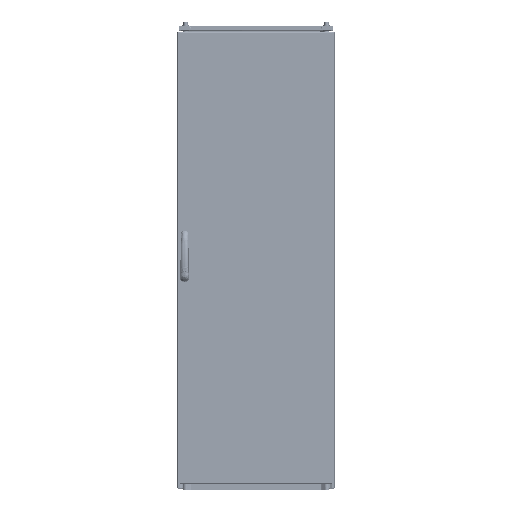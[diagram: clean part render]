
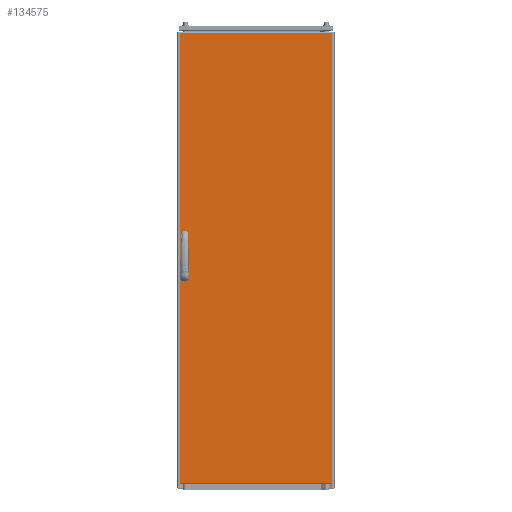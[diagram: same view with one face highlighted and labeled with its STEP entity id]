
A CAD part, top view. The second image highlights one B-rep face of the part: STEP entity #134575.
In plain terms, the highlighted planar face has unit normal (0, 0, 1).
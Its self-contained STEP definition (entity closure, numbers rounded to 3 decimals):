
#3842 = CARTESIAN_POINT ( 'NONE',  ( 0., 1757., 19. ) ) ;
#10317 = CARTESIAN_POINT ( 'NONE',  ( 28.7, 847.75, 19. ) ) ;
#10987 = CARTESIAN_POINT ( 'NONE',  ( 9.7, 847.75, 19. ) ) ;
#11034 = VECTOR ( 'NONE', #187282, 1000. ) ;
#12767 = CARTESIAN_POINT ( 'NONE',  ( 3., 1757., 19. ) ) ;
#13548 = ORIENTED_EDGE ( 'NONE', *, *, #272708, .T. ) ;
#15984 = PLANE ( 'NONE',  #154384 ) ;
#17534 = LINE ( 'NONE', #197592, #212428 ) ;
#17709 = EDGE_CURVE ( 'NONE', #83811, #52136, #253632, .T. ) ;
#24903 = ORIENTED_EDGE ( 'NONE', *, *, #75763, .T. ) ;
#26368 = AXIS2_PLACEMENT_3D ( 'NONE', #234480, #100114, #140090 ) ;
#30258 = DIRECTION ( 'NONE',  ( 1., 0., 0. ) ) ;
#33465 = CARTESIAN_POINT ( 'NONE',  ( 19.2, 912.25, 19. ) ) ;
#33526 = ORIENTED_EDGE ( 'NONE', *, *, #192269, .F. ) ;
#38660 = ORIENTED_EDGE ( 'NONE', *, *, #268574, .F. ) ;
#41505 = ORIENTED_EDGE ( 'NONE', *, *, #227610, .F. ) ;
#48020 = ORIENTED_EDGE ( 'NONE', *, *, #179113, .F. ) ;
#48764 = CARTESIAN_POINT ( 'NONE',  ( 9.7, 912.25, 19. ) ) ;
#52136 = VERTEX_POINT ( 'NONE', #130466 ) ;
#52584 = CARTESIAN_POINT ( 'NONE',  ( 28.7, 912.25, 19. ) ) ;
#57273 = ORIENTED_EDGE ( 'NONE', *, *, #158048, .F. ) ;
#57543 = DIRECTION ( 'NONE',  ( 0., 1., 0. ) ) ;
#66106 = CARTESIAN_POINT ( 'NONE',  ( 28.7, 960.25, 19. ) ) ;
#73413 = DIRECTION ( 'NONE',  ( 0., -1., 0. ) ) ;
#75763 = EDGE_CURVE ( 'NONE', #253144, #82911, #120300, .T. ) ;
#77030 = ORIENTED_EDGE ( 'NONE', *, *, #156551, .F. ) ;
#78875 = EDGE_CURVE ( 'NONE', #52136, #253144, #260836, .T. ) ;
#82911 = VERTEX_POINT ( 'NONE', #12767 ) ;
#83771 = CARTESIAN_POINT ( 'NONE',  ( 592., 1760., 19. ) ) ;
#83811 = VERTEX_POINT ( 'NONE', #180173 ) ;
#85332 = FACE_BOUND ( 'NONE', #232454, .T. ) ;
#85766 = CARTESIAN_POINT ( 'NONE',  ( 19.2, 960.25, 19. ) ) ;
#92218 = VERTEX_POINT ( 'NONE', #105813 ) ;
#94404 = VECTOR ( 'NONE', #57543, 1000. ) ;
#100114 = DIRECTION ( 'NONE',  ( 0., 0., 1. ) ) ;
#105813 = CARTESIAN_POINT ( 'NONE',  ( 28.7, 799.75, 19. ) ) ;
#107619 = AXIS2_PLACEMENT_3D ( 'NONE', #269715, #178322, #30258 ) ;
#108197 = EDGE_LOOP ( 'NONE', ( #125040, #24903, #13548, #201179 ) ) ;
#108881 = VERTEX_POINT ( 'NONE', #48764 ) ;
#110304 = DIRECTION ( 'NONE',  ( -1., 0., 0. ) ) ;
#112951 = ORIENTED_EDGE ( 'NONE', *, *, #145502, .F. ) ;
#120300 = LINE ( 'NONE', #3842, #205084 ) ;
#124071 = EDGE_LOOP ( 'NONE', ( #112951, #33526, #41505, #38660 ) ) ;
#124635 = CIRCLE ( 'NONE', #289543, 9.5 ) ;
#125040 = ORIENTED_EDGE ( 'NONE', *, *, #78875, .T. ) ;
#128100 = FACE_OUTER_BOUND ( 'NONE', #108197, .T. ) ;
#129841 = CARTESIAN_POINT ( 'NONE',  ( 9.7, 799.75, 19. ) ) ;
#130466 = CARTESIAN_POINT ( 'NONE',  ( 592., 3., 19. ) ) ;
#134575 = ADVANCED_FACE ( 'NONE', ( #287443, #85332, #128100 ), #15984, .F. ) ;
#140090 = DIRECTION ( 'NONE',  ( 1., 0., 0. ) ) ;
#145502 = EDGE_CURVE ( 'NONE', #276264, #265312, #236756, .T. ) ;
#146371 = DIRECTION ( 'NONE',  ( 0., 0., 1. ) ) ;
#147797 = CARTESIAN_POINT ( 'NONE',  ( 28.7, 960.25, 19. ) ) ;
#150042 = VERTEX_POINT ( 'NONE', #169118 ) ;
#151750 = DIRECTION ( 'NONE',  ( 0., 1., 0. ) ) ;
#151793 = CARTESIAN_POINT ( 'NONE',  ( 9.7, 847.75, 19. ) ) ;
#154384 = AXIS2_PLACEMENT_3D ( 'NONE', #154636, #240315, #110304 ) ;
#154636 = CARTESIAN_POINT ( 'NONE',  ( 0., 1760., 19. ) ) ;
#155815 = VECTOR ( 'NONE', #73413, 1000. ) ;
#156551 = EDGE_CURVE ( 'NONE', #184663, #245797, #280573, .T. ) ;
#158048 = EDGE_CURVE ( 'NONE', #245797, #281021, #124635, .T. ) ;
#163424 = LINE ( 'NONE', #203346, #155815 ) ;
#166189 = EDGE_CURVE ( 'NONE', #108881, #184663, #255719, .T. ) ;
#169118 = CARTESIAN_POINT ( 'NONE',  ( 28.7, 847.75, 19. ) ) ;
#169426 = DIRECTION ( 'NONE',  ( 0., 1., 0. ) ) ;
#178322 = DIRECTION ( 'NONE',  ( 0., 0., 1. ) ) ;
#179113 = EDGE_CURVE ( 'NONE', #281021, #108881, #17534, .T. ) ;
#180173 = CARTESIAN_POINT ( 'NONE',  ( 3., 3., 19. ) ) ;
#182950 = VECTOR ( 'NONE', #169426, 1000. ) ;
#184663 = VERTEX_POINT ( 'NONE', #52584 ) ;
#185338 = DIRECTION ( 'NONE',  ( -1., 0., 0. ) ) ;
#187282 = DIRECTION ( 'NONE',  ( 1., 0., 0. ) ) ;
#187963 = CIRCLE ( 'NONE', #107619, 9.5 ) ;
#191370 = DIRECTION ( 'NONE',  ( 0., 0., 1. ) ) ;
#192269 = EDGE_CURVE ( 'NONE', #150042, #276264, #187963, .T. ) ;
#197592 = CARTESIAN_POINT ( 'NONE',  ( 9.7, 960.25, 19. ) ) ;
#200779 = CIRCLE ( 'NONE', #26368, 9.5 ) ;
#201179 = ORIENTED_EDGE ( 'NONE', *, *, #17709, .T. ) ;
#203346 = CARTESIAN_POINT ( 'NONE',  ( 3., 1760., 19. ) ) ;
#205084 = VECTOR ( 'NONE', #185338, 1000. ) ;
#212428 = VECTOR ( 'NONE', #287537, 1000. ) ;
#218432 = VECTOR ( 'NONE', #151750, 1000. ) ;
#227610 = EDGE_CURVE ( 'NONE', #92218, #150042, #262568, .T. ) ;
#232454 = EDGE_LOOP ( 'NONE', ( #48020, #57273, #77030, #285584 ) ) ;
#234480 = CARTESIAN_POINT ( 'NONE',  ( 19.2, 799.75, 19. ) ) ;
#236756 = LINE ( 'NONE', #10987, #240552 ) ;
#240315 = DIRECTION ( 'NONE',  ( 0., 0., -1. ) ) ;
#240552 = VECTOR ( 'NONE', #257428, 1000. ) ;
#245797 = VERTEX_POINT ( 'NONE', #147797 ) ;
#246760 = CARTESIAN_POINT ( 'NONE',  ( 9.7, 960.25, 19. ) ) ;
#253144 = VERTEX_POINT ( 'NONE', #275488 ) ;
#253632 = LINE ( 'NONE', #256553, #11034 ) ;
#255719 = CIRCLE ( 'NONE', #260328, 9.5 ) ;
#256553 = CARTESIAN_POINT ( 'NONE',  ( 0., 3., 19. ) ) ;
#257428 = DIRECTION ( 'NONE',  ( 0., -1., 0. ) ) ;
#260328 = AXIS2_PLACEMENT_3D ( 'NONE', #33465, #191370, #279870 ) ;
#260836 = LINE ( 'NONE', #83771, #182950 ) ;
#262568 = LINE ( 'NONE', #10317, #94404 ) ;
#265312 = VERTEX_POINT ( 'NONE', #129841 ) ;
#268574 = EDGE_CURVE ( 'NONE', #265312, #92218, #200779, .T. ) ;
#269715 = CARTESIAN_POINT ( 'NONE',  ( 19.2, 847.75, 19. ) ) ;
#272708 = EDGE_CURVE ( 'NONE', #82911, #83811, #163424, .T. ) ;
#275488 = CARTESIAN_POINT ( 'NONE',  ( 592., 1757., 19. ) ) ;
#276264 = VERTEX_POINT ( 'NONE', #151793 ) ;
#279870 = DIRECTION ( 'NONE',  ( 1., 0., 0. ) ) ;
#280573 = LINE ( 'NONE', #66106, #218432 ) ;
#281021 = VERTEX_POINT ( 'NONE', #246760 ) ;
#282073 = DIRECTION ( 'NONE',  ( 1., 0., 0. ) ) ;
#285584 = ORIENTED_EDGE ( 'NONE', *, *, #166189, .F. ) ;
#287443 = FACE_BOUND ( 'NONE', #124071, .T. ) ;
#287537 = DIRECTION ( 'NONE',  ( 0., -1., 0. ) ) ;
#289543 = AXIS2_PLACEMENT_3D ( 'NONE', #85766, #146371, #282073 ) ;
